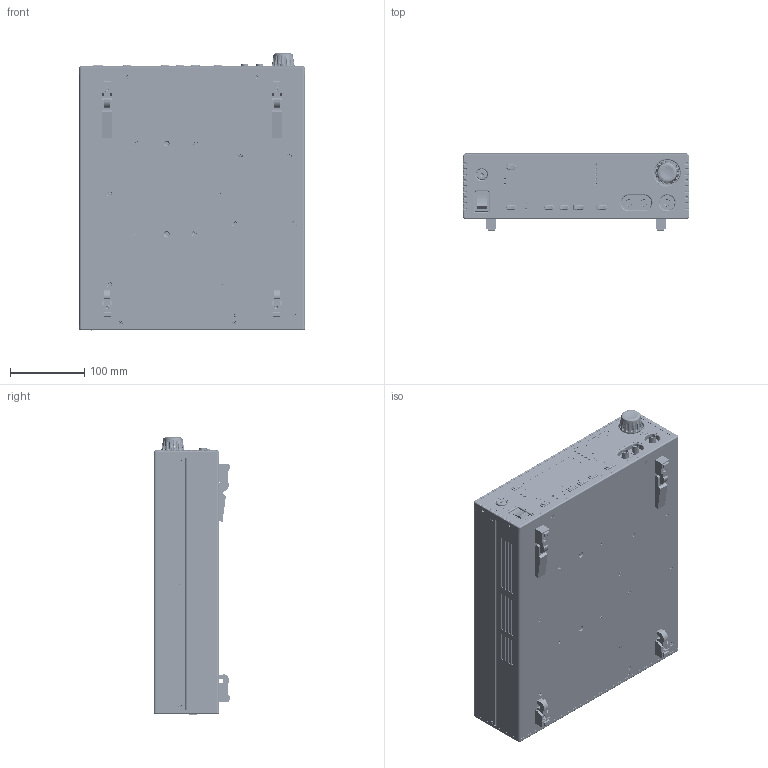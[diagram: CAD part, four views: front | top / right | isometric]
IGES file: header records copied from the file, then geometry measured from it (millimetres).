
Start section: SolidWorks IGES file using analytic representation for surfaces
Global section: file name: C:\Dropbox\Mechanical Engr\Development Projects (P)\4400 LaserSource\Customer Model Development\Step 4 - 44XX TLA - 17W3.IGS; native system: SolidWorks 2017; preprocessor: SolidWorks 2017; author: mhanson; date: 180314.130946; units: inch
Bounding box: 304.8 x 103.35 x 374.21 mm (x, y, z)
Surface area: 389683.2 mm2 (no closed solid volume)
Topology: 0 solids, 0 shells, 10362 faces, 110345 edges, 110236 vertices
Faces by surface type: bspline 8540, revolution 1822
